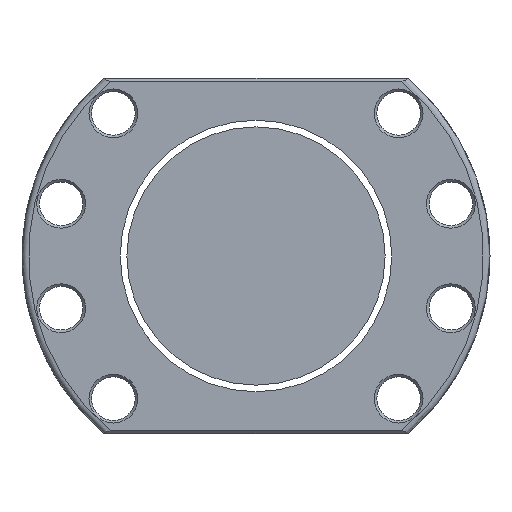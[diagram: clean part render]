
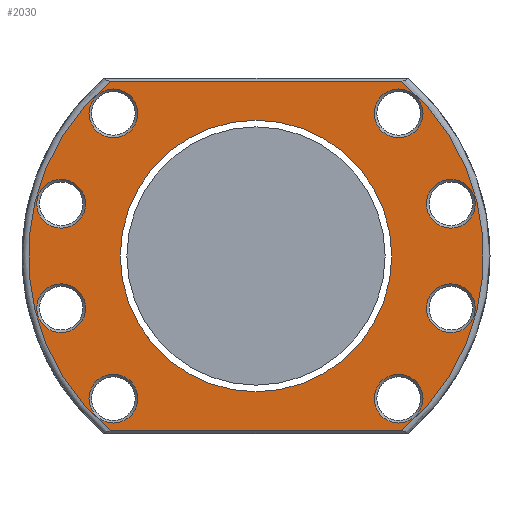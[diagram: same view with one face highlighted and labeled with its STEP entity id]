
A CAD part, left-side view. The second image highlights one B-rep face of the part: STEP entity #2030.
In plain terms, the highlighted planar face has unit normal (-1, 0, 0).
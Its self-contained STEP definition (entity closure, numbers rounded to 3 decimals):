
#7 = AXIS2_PLACEMENT_3D ( 'NONE', #1308, #2653, #1356 ) ;
#12 = DIRECTION ( 'NONE',  ( 1., 0., 0. ) ) ;
#16 = VERTEX_POINT ( 'NONE', #526 ) ;
#28 = EDGE_CURVE ( 'NONE', #3356, #3356, #856, .T. ) ;
#33 = CARTESIAN_POINT ( 'NONE',  ( -93., 52.82, -16.176 ) ) ;
#55 = EDGE_LOOP ( 'NONE', ( #2287 ) ) ;
#69 = CARTESIAN_POINT ( 'NONE',  ( -93., 60.37, 16.176 ) ) ;
#75 = FACE_BOUND ( 'NONE', #1456, .T. ) ;
#92 = FACE_BOUND ( 'NONE', #55, .T. ) ;
#183 = CARTESIAN_POINT ( 'NONE',  ( -93., -45.084, -54.2 ) ) ;
#223 = ORIENTED_EDGE ( 'NONE', *, *, #2683, .T. ) ;
#259 = CARTESIAN_POINT ( 'NONE',  ( -93., -60.37, -16.176 ) ) ;
#275 = CARTESIAN_POINT ( 'NONE',  ( -93., 45.084, 54.2 ) ) ;
#283 = CIRCLE ( 'NONE', #7, 70.5 ) ;
#293 = DIRECTION ( 'NONE',  ( 0., -1., 0. ) ) ;
#299 = FACE_OUTER_BOUND ( 'NONE', #3138, .T. ) ;
#330 = AXIS2_PLACEMENT_3D ( 'NONE', #1326, #1120, #338 ) ;
#332 = DIRECTION ( 'NONE',  ( 1., 0., 0. ) ) ;
#338 = DIRECTION ( 'NONE',  ( 0., 1., 0. ) ) ;
#354 = AXIS2_PLACEMENT_3D ( 'NONE', #468, #12, #3334 ) ;
#369 = DIRECTION ( 'NONE',  ( 1., 0., 0. ) ) ;
#412 = AXIS2_PLACEMENT_3D ( 'NONE', #2016, #1481, #2723 ) ;
#443 = EDGE_LOOP ( 'NONE', ( #512 ) ) ;
#460 = VECTOR ( 'NONE', #2855, 1000. ) ;
#468 = CARTESIAN_POINT ( 'NONE',  ( -93., 44.194, 44.194 ) ) ;
#476 = CARTESIAN_POINT ( 'NONE',  ( -93., 45.084, -54.2 ) ) ;
#512 = ORIENTED_EDGE ( 'NONE', *, *, #1543, .T. ) ;
#514 = DIRECTION ( 'NONE',  ( 0., -1., 0. ) ) ;
#526 = CARTESIAN_POINT ( 'NONE',  ( -93., -51.744, -44.194 ) ) ;
#543 = LINE ( 'NONE', #781, #460 ) ;
#600 = CIRCLE ( 'NONE', #768, 70.5 ) ;
#631 = DIRECTION ( 'NONE',  ( 1., 0., 0. ) ) ;
#672 = EDGE_CURVE ( 'NONE', #2063, #2063, #683, .T. ) ;
#683 = CIRCLE ( 'NONE', #354, 7.55 ) ;
#684 = EDGE_LOOP ( 'NONE', ( #2757 ) ) ;
#693 = AXIS2_PLACEMENT_3D ( 'NONE', #3217, #332, #3236 ) ;
#735 = CIRCLE ( 'NONE', #1334, 7.55 ) ;
#763 = CARTESIAN_POINT ( 'NONE',  ( -93., -67.92, -16.176 ) ) ;
#768 = AXIS2_PLACEMENT_3D ( 'NONE', #1619, #1601, #293 ) ;
#781 = CARTESIAN_POINT ( 'NONE',  ( -93., 47.236, 54.2 ) ) ;
#851 = ORIENTED_EDGE ( 'NONE', *, *, #2563, .T. ) ;
#856 = CIRCLE ( 'NONE', #693, 7.55 ) ;
#871 = PLANE ( 'NONE',  #412 ) ;
#873 = CIRCLE ( 'NONE', #330, 42.05 ) ;
#899 = ORIENTED_EDGE ( 'NONE', *, *, #2355, .T. ) ;
#921 = DIRECTION ( 'NONE',  ( 0., -1., 0. ) ) ;
#925 = CARTESIAN_POINT ( 'NONE',  ( -93., -45.084, 54.2 ) ) ;
#971 = CARTESIAN_POINT ( 'NONE',  ( -93., 44.194, -44.194 ) ) ;
#982 = CARTESIAN_POINT ( 'NONE',  ( -93., -51.744, 44.194 ) ) ;
#1014 = VERTEX_POINT ( 'NONE', #763 ) ;
#1035 = VECTOR ( 'NONE', #2049, 1000. ) ;
#1120 = DIRECTION ( 'NONE',  ( 1., 0., 0. ) ) ;
#1126 = FACE_BOUND ( 'NONE', #2540, .T. ) ;
#1132 = CARTESIAN_POINT ( 'NONE',  ( -93., 52.82, 16.176 ) ) ;
#1160 = ORIENTED_EDGE ( 'NONE', *, *, #28, .T. ) ;
#1181 = DIRECTION ( 'NONE',  ( 1., 0., 0. ) ) ;
#1201 = CIRCLE ( 'NONE', #1803, 7.55 ) ;
#1271 = CARTESIAN_POINT ( 'NONE',  ( -93., 36.644, -44.194 ) ) ;
#1282 = AXIS2_PLACEMENT_3D ( 'NONE', #2741, #1181, #2489 ) ;
#1308 = CARTESIAN_POINT ( 'NONE',  ( -93., 0., 0. ) ) ;
#1326 = CARTESIAN_POINT ( 'NONE',  ( -93., 0., 0. ) ) ;
#1334 = AXIS2_PLACEMENT_3D ( 'NONE', #1937, #369, #1617 ) ;
#1343 = EDGE_LOOP ( 'NONE', ( #2821 ) ) ;
#1356 = DIRECTION ( 'NONE',  ( 0., -1., 0. ) ) ;
#1363 = FACE_BOUND ( 'NONE', #1743, .T. ) ;
#1377 = ORIENTED_EDGE ( 'NONE', *, *, #2628, .T. ) ;
#1397 = FACE_BOUND ( 'NONE', #1343, .T. ) ;
#1403 = VERTEX_POINT ( 'NONE', #2410 ) ;
#1456 = EDGE_LOOP ( 'NONE', ( #3326 ) ) ;
#1480 = EDGE_CURVE ( 'NONE', #2168, #2722, #543, .T. ) ;
#1481 = DIRECTION ( 'NONE',  ( -1., 0., 0. ) ) ;
#1513 = EDGE_LOOP ( 'NONE', ( #2037 ) ) ;
#1515 = CARTESIAN_POINT ( 'NONE',  ( -93., -47.236, -54.2 ) ) ;
#1532 = LINE ( 'NONE', #1515, #1035 ) ;
#1543 = EDGE_CURVE ( 'NONE', #16, #16, #735, .T. ) ;
#1546 = CARTESIAN_POINT ( 'NONE',  ( -93., 36.644, 44.194 ) ) ;
#1581 = VERTEX_POINT ( 'NONE', #982 ) ;
#1586 = AXIS2_PLACEMENT_3D ( 'NONE', #259, #2803, #3292 ) ;
#1601 = DIRECTION ( 'NONE',  ( -1., 0., 0. ) ) ;
#1617 = DIRECTION ( 'NONE',  ( 0., -1., 0. ) ) ;
#1619 = CARTESIAN_POINT ( 'NONE',  ( -93., 0., 0. ) ) ;
#1743 = EDGE_LOOP ( 'NONE', ( #1160 ) ) ;
#1803 = AXIS2_PLACEMENT_3D ( 'NONE', #69, #2873, #2890 ) ;
#1806 = CARTESIAN_POINT ( 'NONE',  ( -93., -67.92, 16.176 ) ) ;
#1937 = CARTESIAN_POINT ( 'NONE',  ( -93., -44.194, -44.194 ) ) ;
#1938 = AXIS2_PLACEMENT_3D ( 'NONE', #971, #1999, #514 ) ;
#1999 = DIRECTION ( 'NONE',  ( 1., 0., 0. ) ) ;
#2016 = CARTESIAN_POINT ( 'NONE',  ( -93., 72.5, 0. ) ) ;
#2030 = ADVANCED_FACE ( 'NONE', ( #1363, #2672, #75, #1397, #92, #1126, #2169, #3197, #299, #2374 ), #871, .T. ) ;
#2037 = ORIENTED_EDGE ( 'NONE', *, *, #2134, .T. ) ;
#2049 = DIRECTION ( 'NONE',  ( 0., -1., 0. ) ) ;
#2063 = VERTEX_POINT ( 'NONE', #1546 ) ;
#2134 = EDGE_CURVE ( 'NONE', #1581, #1581, #2156, .T. ) ;
#2156 = CIRCLE ( 'NONE', #1282, 7.55 ) ;
#2168 = VERTEX_POINT ( 'NONE', #925 ) ;
#2169 = FACE_BOUND ( 'NONE', #443, .T. ) ;
#2287 = ORIENTED_EDGE ( 'NONE', *, *, #3280, .T. ) ;
#2342 = CIRCLE ( 'NONE', #1586, 7.55 ) ;
#2355 = EDGE_CURVE ( 'NONE', #3321, #3321, #2961, .T. ) ;
#2374 = FACE_BOUND ( 'NONE', #684, .T. ) ;
#2410 = CARTESIAN_POINT ( 'NONE',  ( -93., 42.05, 0. ) ) ;
#2474 = CIRCLE ( 'NONE', #3069, 7.55 ) ;
#2489 = DIRECTION ( 'NONE',  ( 0., -1., 0. ) ) ;
#2540 = EDGE_LOOP ( 'NONE', ( #899 ) ) ;
#2563 = EDGE_CURVE ( 'NONE', #2654, #2956, #1532, .T. ) ;
#2628 = EDGE_CURVE ( 'NONE', #1014, #1014, #2342, .T. ) ;
#2650 = VERTEX_POINT ( 'NONE', #1132 ) ;
#2653 = DIRECTION ( 'NONE',  ( -1., 0., 0. ) ) ;
#2654 = VERTEX_POINT ( 'NONE', #476 ) ;
#2672 = FACE_BOUND ( 'NONE', #1513, .T. ) ;
#2683 = EDGE_CURVE ( 'NONE', #2956, #2168, #600, .T. ) ;
#2722 = VERTEX_POINT ( 'NONE', #275 ) ;
#2723 = DIRECTION ( 'NONE',  ( 0., -1., 0. ) ) ;
#2727 = EDGE_CURVE ( 'NONE', #1403, #1403, #873, .T. ) ;
#2741 = CARTESIAN_POINT ( 'NONE',  ( -93., -44.194, 44.194 ) ) ;
#2757 = ORIENTED_EDGE ( 'NONE', *, *, #2727, .T. ) ;
#2771 = EDGE_CURVE ( 'NONE', #2650, #2650, #1201, .T. ) ;
#2803 = DIRECTION ( 'NONE',  ( 1., 0., 0. ) ) ;
#2821 = ORIENTED_EDGE ( 'NONE', *, *, #2771, .T. ) ;
#2855 = DIRECTION ( 'NONE',  ( 0., 1., 0. ) ) ;
#2873 = DIRECTION ( 'NONE',  ( 1., 0., 0. ) ) ;
#2876 = EDGE_CURVE ( 'NONE', #2722, #2654, #283, .T. ) ;
#2890 = DIRECTION ( 'NONE',  ( 0., -1., 0. ) ) ;
#2953 = CARTESIAN_POINT ( 'NONE',  ( -93., 60.37, -16.176 ) ) ;
#2956 = VERTEX_POINT ( 'NONE', #183 ) ;
#2961 = CIRCLE ( 'NONE', #1938, 7.55 ) ;
#3069 = AXIS2_PLACEMENT_3D ( 'NONE', #2953, #631, #921 ) ;
#3096 = ORIENTED_EDGE ( 'NONE', *, *, #2876, .T. ) ;
#3113 = EDGE_LOOP ( 'NONE', ( #1377 ) ) ;
#3138 = EDGE_LOOP ( 'NONE', ( #851, #223, #3293, #3096 ) ) ;
#3188 = VERTEX_POINT ( 'NONE', #33 ) ;
#3197 = FACE_BOUND ( 'NONE', #3113, .T. ) ;
#3217 = CARTESIAN_POINT ( 'NONE',  ( -93., -60.37, 16.176 ) ) ;
#3236 = DIRECTION ( 'NONE',  ( 0., -1., 0. ) ) ;
#3280 = EDGE_CURVE ( 'NONE', #3188, #3188, #2474, .T. ) ;
#3292 = DIRECTION ( 'NONE',  ( 0., -1., 0. ) ) ;
#3293 = ORIENTED_EDGE ( 'NONE', *, *, #1480, .T. ) ;
#3321 = VERTEX_POINT ( 'NONE', #1271 ) ;
#3326 = ORIENTED_EDGE ( 'NONE', *, *, #672, .T. ) ;
#3334 = DIRECTION ( 'NONE',  ( 0., -1., 0. ) ) ;
#3356 = VERTEX_POINT ( 'NONE', #1806 ) ;
